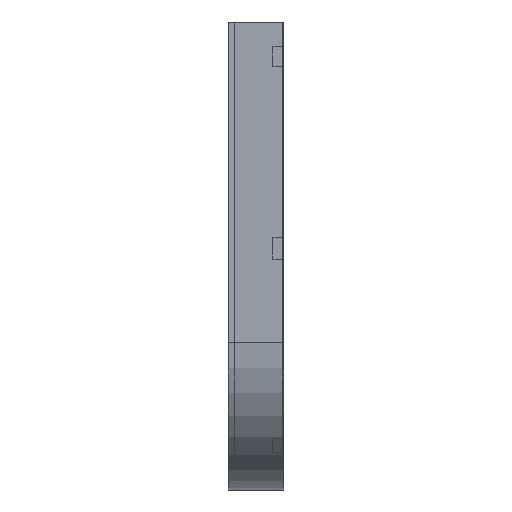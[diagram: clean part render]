
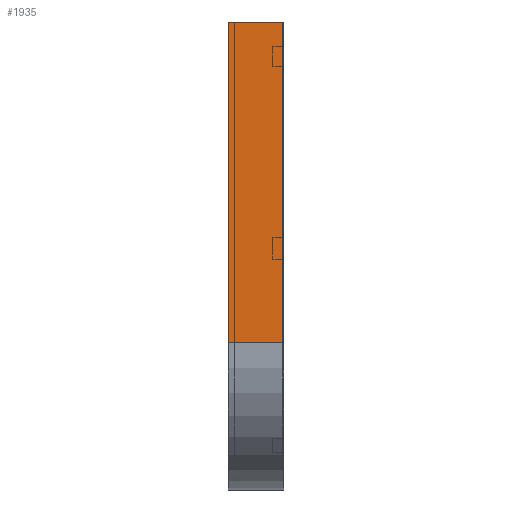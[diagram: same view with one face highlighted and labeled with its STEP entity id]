
A CAD part, left-side view. The second image highlights one B-rep face of the part: STEP entity #1935.
In plain terms, the highlighted planar face has unit normal (-1, 0, 0).
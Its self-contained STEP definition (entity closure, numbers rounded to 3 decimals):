
#51 = CARTESIAN_POINT ( 'NONE',  ( 0., 112.5, 0. ) ) ;
#103 = CARTESIAN_POINT ( 'NONE',  ( 0., 0., -650. ) ) ;
#159 = PLANE ( 'NONE',  #1635 ) ;
#266 = DIRECTION ( 'NONE',  ( 0., -1., 0. ) ) ;
#322 = VERTEX_POINT ( 'NONE', #1077 ) ;
#323 = EDGE_CURVE ( 'NONE', #2022, #322, #899, .T. ) ;
#447 = ORIENTED_EDGE ( 'NONE', *, *, #965, .T. ) ;
#453 = CARTESIAN_POINT ( 'NONE',  ( 0., 112.5, -650. ) ) ;
#473 = DIRECTION ( 'NONE',  ( 1., 0., 0. ) ) ;
#497 = CARTESIAN_POINT ( 'NONE',  ( 0., 0., 0. ) ) ;
#505 = LINE ( 'NONE', #497, #1085 ) ;
#614 = DIRECTION ( 'NONE',  ( 0., 0., -1. ) ) ;
#662 = EDGE_CURVE ( 'NONE', #722, #1091, #505, .T. ) ;
#675 = LINE ( 'NONE', #1332, #1312 ) ;
#722 = VERTEX_POINT ( 'NONE', #51 ) ;
#842 = FACE_OUTER_BOUND ( 'NONE', #1057, .T. ) ;
#899 = LINE ( 'NONE', #103, #1930 ) ;
#965 = EDGE_CURVE ( 'NONE', #722, #2022, #675, .T. ) ;
#1042 = CARTESIAN_POINT ( 'NONE',  ( 0., 0., 0. ) ) ;
#1057 = EDGE_LOOP ( 'NONE', ( #1578, #1891, #447, #2010 ) ) ;
#1077 = CARTESIAN_POINT ( 'NONE',  ( 0., 0., -650. ) ) ;
#1085 = VECTOR ( 'NONE', #1330, 1000. ) ;
#1091 = VERTEX_POINT ( 'NONE', #1042 ) ;
#1179 = EDGE_CURVE ( 'NONE', #1091, #322, #1743, .T. ) ;
#1284 = CARTESIAN_POINT ( 'NONE',  ( 0., 0., 0. ) ) ;
#1312 = VECTOR ( 'NONE', #1506, 1000. ) ;
#1330 = DIRECTION ( 'NONE',  ( 0., -1., 0. ) ) ;
#1332 = CARTESIAN_POINT ( 'NONE',  ( 0., 112.5, 0. ) ) ;
#1506 = DIRECTION ( 'NONE',  ( 0., 0., -1. ) ) ;
#1578 = ORIENTED_EDGE ( 'NONE', *, *, #1179, .F. ) ;
#1635 = AXIS2_PLACEMENT_3D ( 'NONE', #1284, #473, #614 ) ;
#1743 = LINE ( 'NONE', #1761, #1804 ) ;
#1752 = DIRECTION ( 'NONE',  ( 0., 0., -1. ) ) ;
#1761 = CARTESIAN_POINT ( 'NONE',  ( 0., 0., 0. ) ) ;
#1804 = VECTOR ( 'NONE', #1752, 1000. ) ;
#1891 = ORIENTED_EDGE ( 'NONE', *, *, #662, .F. ) ;
#1930 = VECTOR ( 'NONE', #266, 1000. ) ;
#1935 = ADVANCED_FACE ( 'NONE', ( #842 ), #159, .F. ) ;
#2010 = ORIENTED_EDGE ( 'NONE', *, *, #323, .T. ) ;
#2022 = VERTEX_POINT ( 'NONE', #453 ) ;
